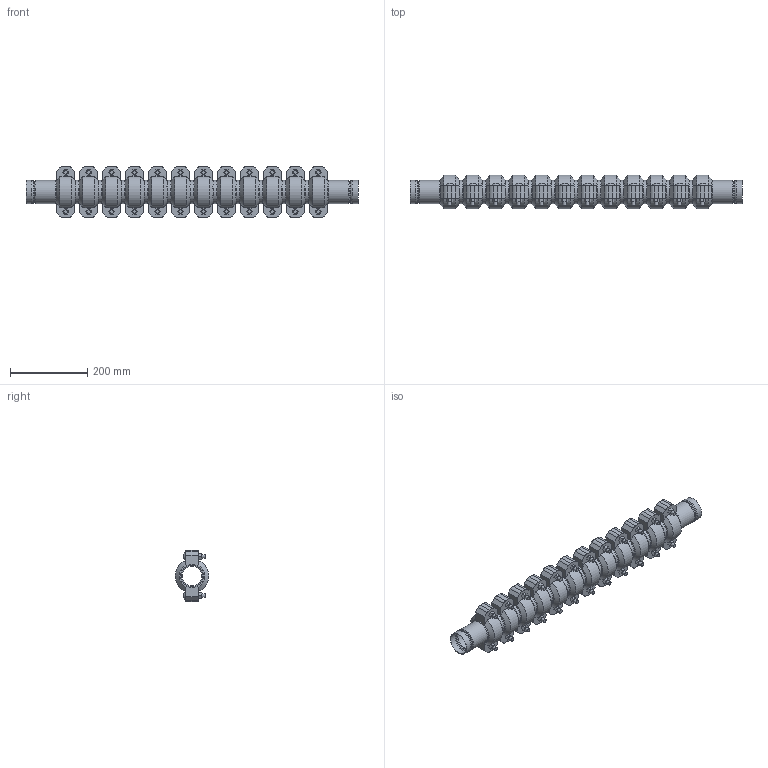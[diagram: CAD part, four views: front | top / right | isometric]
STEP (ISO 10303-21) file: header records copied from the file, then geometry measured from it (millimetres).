
FILE_DESCRIPTION(/* description */ ('VIC STRENGTHIN 100 EXPANSION JOINT 12 COUPLINGS NEUTRAL STYLE E155 (ST1)','CAx-IF Rec.Pracs.---Representation and Presentation of Product Manufacturing Information (PMI)---4.0---2014-10-13'),/* implementation_level */ '2;1');
FILE_NAME(/* name */ 'C:\Users\Vjadhav\AppData\Roaming\Autodesk\ApplicationPlugins\Victaulic.Temp\A29\Victaulic_SS-StrengThin 100_Expansion Joint_Neutral_12 Couplings_Style E155 (ST1)_12 Coup_Neut_2 (50).stp',/* time_stamp */ '2021-07-20T17:42:12+05:00',/* author */ ('kkamble'),/* organization */ ('Victaulic'),/* preprocessor_version */ 'ST-DEVELOPER v17.2',/* originating_system */ 'Autodesk Inventor 2019',/* authorisation */ '');
FILE_SCHEMA (('AP203_CONFIGURATION_CONTROLLED_3D_DESIGN_OF_MECHANICAL_PARTS_AND_ASSEMBLIES_MIM_LF { 1 0 10303 203 3 1 4 }','AP242_MANAGED_MODEL_BASED_3D_ENGINEERING_MIM_LF { 1 0 10303 442 1 1 4 }'));
Length unit declared in the file: inch
Products named in the file (4): E155-02.0; E494G-02.0; Nipple-02.0; 075-02.0
Assembly tree (25 placements, depth 2):
  E155-02.0
    E494G-02.0  x2
    Nipple-02.0  x11
    075-02.0  x12
Bounding box: 860.55 x 87.12 x 132.59 mm (x, y, z)
Volume: 2847241.3 mm3; surface area: 805798.4 mm2
Topology: 25 solids, 49 shells, 884 faces, 2148 edges, 1510 vertices
Faces by surface type: plane 510, cylinder 266, cone 52, torus 32, bspline 24
Full cylindrical faces by diameter (mm): 9.525 x48, 11.43 x24, 51.13 x2, 52.502 x11, 53.95 x2, 53.975 x12, 54.331 x2, 57.125 x6, 57.15 x24, 60.325 x63
Entity records: 3862 total; most frequent: DIRECTION 693, CARTESIAN_POINT 671, ORIENTED_EDGE 548, AXIS2_PLACEMENT_3D 297, EDGE_CURVE 274, VERTEX_POINT 197, CIRCLE 167, EDGE_LOOP 129
